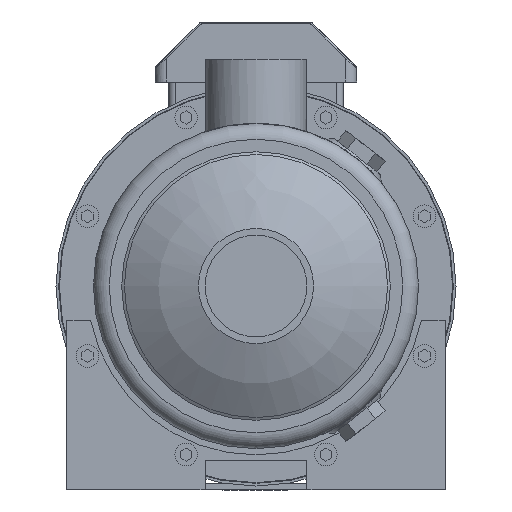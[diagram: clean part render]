
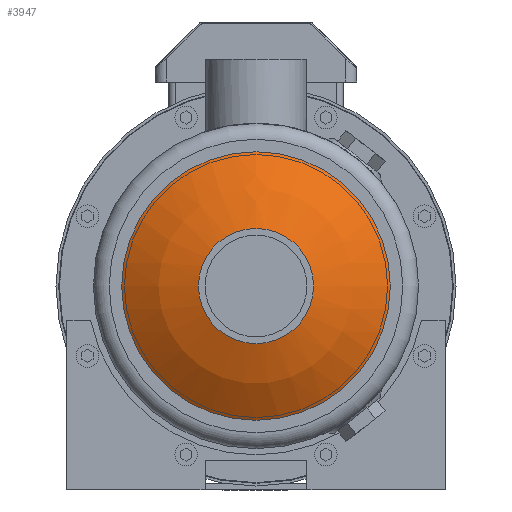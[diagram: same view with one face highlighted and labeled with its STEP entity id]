
A CAD part, left-side view. The second image highlights one B-rep face of the part: STEP entity #3947.
In plain terms, the highlighted spherical face has radius 100 mm.
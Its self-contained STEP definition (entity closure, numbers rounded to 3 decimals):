
#63=SPHERICAL_SURFACE('',#5328,100.);
#914=ORIENTED_EDGE('',*,*,#1975,.T.);
#915=ORIENTED_EDGE('',*,*,#1974,.F.);
#1974=EDGE_CURVE('',#2509,#2509,#2876,.T.);
#1975=EDGE_CURVE('',#2510,#2510,#2877,.T.);
#2509=VERTEX_POINT('',#7116);
#2510=VERTEX_POINT('',#7119);
#2876=CIRCLE('',#5327,25.4);
#2877=CIRCLE('',#5329,59.25);
#3054=EDGE_LOOP('',(#914));
#3055=EDGE_LOOP('',(#915));
#3429=FACE_BOUND('',#3054,.T.);
#3430=FACE_BOUND('',#3055,.T.);
#3947=ADVANCED_FACE('',(#3429,#3430),#63,.T.);
#5327=AXIS2_PLACEMENT_3D('',#7115,#5813,#5814);
#5328=AXIS2_PLACEMENT_3D('',#7117,#5815,#5816);
#5329=AXIS2_PLACEMENT_3D('',#7118,#5817,#5818);
#5813=DIRECTION('',(-1.,0.,0.));
#5814=DIRECTION('',(0.,0.,1.));
#5815=DIRECTION('',(-1.,0.,0.));
#5816=DIRECTION('',(0.,0.,1.));
#5817=DIRECTION('',(-1.,0.,0.));
#5818=DIRECTION('',(0.,0.,1.));
#7115=CARTESIAN_POINT('',(-112.02,0.,0.));
#7116=CARTESIAN_POINT('',(-112.02,0.,25.4));
#7117=CARTESIAN_POINT('',(-15.3,0.,0.));
#7118=CARTESIAN_POINT('',(-95.857,0.,0.));
#7119=CARTESIAN_POINT('',(-95.857,0.,59.25));
